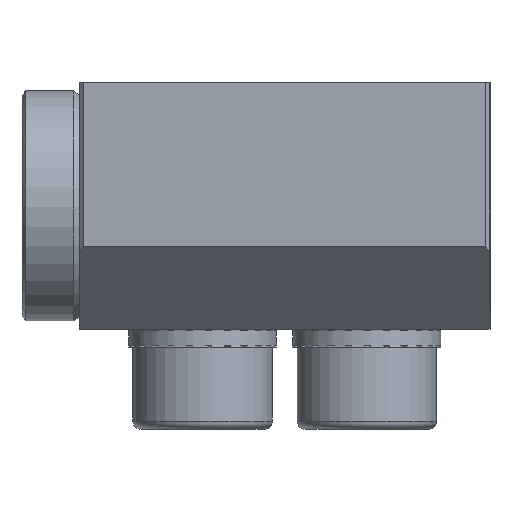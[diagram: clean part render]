
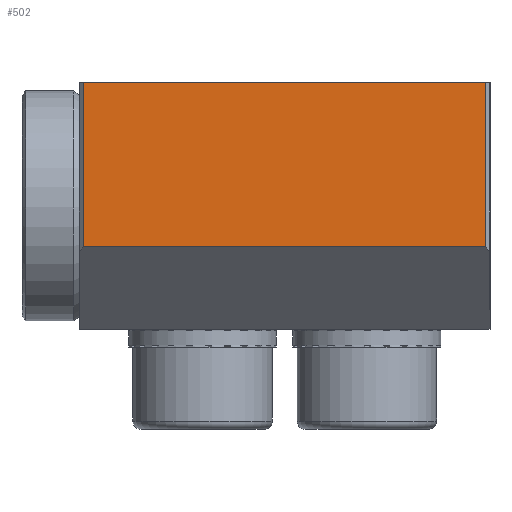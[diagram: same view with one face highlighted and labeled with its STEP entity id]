
A CAD part, left-side view. The second image highlights one B-rep face of the part: STEP entity #502.
In plain terms, the highlighted planar face has unit normal (-1, 0, 0).
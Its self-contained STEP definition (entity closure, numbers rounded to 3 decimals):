
#502=ADVANCED_FACE('',(#1185),#1186,.F.);
#1185=FACE_OUTER_BOUND('',#2116,.T.);
#1186=PLANE('',#2117);
#2116=EDGE_LOOP('',(#3103,#3104,#3105,#3106));
#2117=AXIS2_PLACEMENT_3D('',#3107,#3108,#3109);
#3103=ORIENTED_EDGE('',*,*,#5791,.T.);
#3104=ORIENTED_EDGE('',*,*,#5792,.T.);
#3105=ORIENTED_EDGE('',*,*,#5734,.F.);
#3106=ORIENTED_EDGE('',*,*,#5793,.T.);
#3107=CARTESIAN_POINT('',(-22.75,12.5,15.0));
#3108=DIRECTION('',(1.0,0.,0.0));
#3109=DIRECTION('',(0.,1.0,0.0));
#5734=EDGE_CURVE('',#6829,#6830,#6831,.T.);
#5791=EDGE_CURVE('',#6923,#6924,#6925,.T.);
#5792=EDGE_CURVE('',#6924,#6830,#6926,.T.);
#5793=EDGE_CURVE('',#6829,#6923,#6927,.T.);
#6829=VERTEX_POINT('',#8641);
#6830=VERTEX_POINT('',#8642);
#6831=LINE('',#8643,#8644);
#6923=VERTEX_POINT('',#8776);
#6924=VERTEX_POINT('',#8777);
#6925=LINE('',#8778,#8779);
#6926=LINE('',#8780,#8781);
#6927=LINE('',#8782,#8783);
#8641=CARTESIAN_POINT('',(-22.75,12.25,15.0));
#8642=CARTESIAN_POINT('',(-22.75,-12.25,15.0));
#8643=CARTESIAN_POINT('',(-22.75,12.5,15.0));
#8644=VECTOR('',#10936,1.0);
#8776=CARTESIAN_POINT('',(-22.75,12.25,5.0));
#8777=CARTESIAN_POINT('',(-22.75,-12.25,5.0));
#8778=CARTESIAN_POINT('',(-22.75,12.5,5.0));
#8779=VECTOR('',#10992,1.0);
#8780=CARTESIAN_POINT('',(-22.75,-12.25,15.0));
#8781=VECTOR('',#10993,1.0);
#8782=CARTESIAN_POINT('',(-22.75,12.25,15.0));
#8783=VECTOR('',#10994,1.0);
#10936=DIRECTION('',(0.,-1.0,0.0));
#10992=DIRECTION('',(0.,-1.0,0.0));
#10993=DIRECTION('',(0.0,0.0,1.0));
#10994=DIRECTION('',(0.0,0.0,-1.0));
